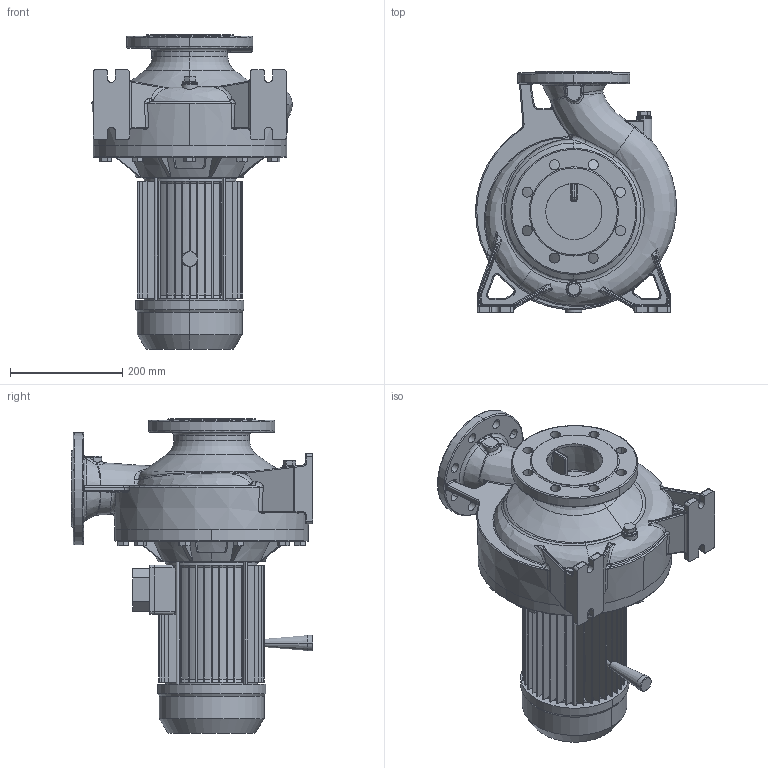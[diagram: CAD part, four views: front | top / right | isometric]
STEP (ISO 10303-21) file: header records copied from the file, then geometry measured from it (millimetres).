
FILE_DESCRIPTION((''),'2;1');
FILE_NAME('3M4_80-200_3_IE2_ASM','2018-06-04T',('rosa'),('"Ebara Pumps Europe +39.444.706811"'),'PRO/ENGINEER BY PARAMETRIC TECHNOLOGY CORPORATION, 2012130','PRO/ENGINEER BY PARAMETRIC TECHNOLOGY CORPORATION, 2012130','');
FILE_SCHEMA(('AUTOMOTIVE_DESIGN { 1 0 10303 214 1 1 1 1 }'));
Products named in the file (5): CORPO_POMPA_80-200; SUPPORTO_3M_266_100; MEC_100X170_IE2; 72405; 3M4_80-200_3_IE2_ASM
Assembly tree (4 placements, depth 2):
  3M4_80-200_3_IE2_ASM
    CORPO_POMPA_80-200
    SUPPORTO_3M_266_100
    MEC_100X170_IE2
    72405
Bounding box: 357.99 x 430 x 561 mm (x, y, z)
Volume: 17401862.2 mm3; surface area: 1462166.5 mm2
Topology: 4 solids, 4 shells, 1172 faces, 2841 edges, 1707 vertices
Faces by surface type: plane 456, cylinder 293, bspline 208, torus 100, cone 94, sphere 21
Entity records: 55916 total; most frequent: CARTESIAN_POINT 20725, ORIENTED_EDGE 5680, DIRECTION 5077, EDGE_CURVE 2840, PRESENTATION_STYLE_ASSIGNMENT 2829, STYLED_ITEM 2829, CURVE_STYLE 2826, AXIS2_PLACEMENT_3D 1956
